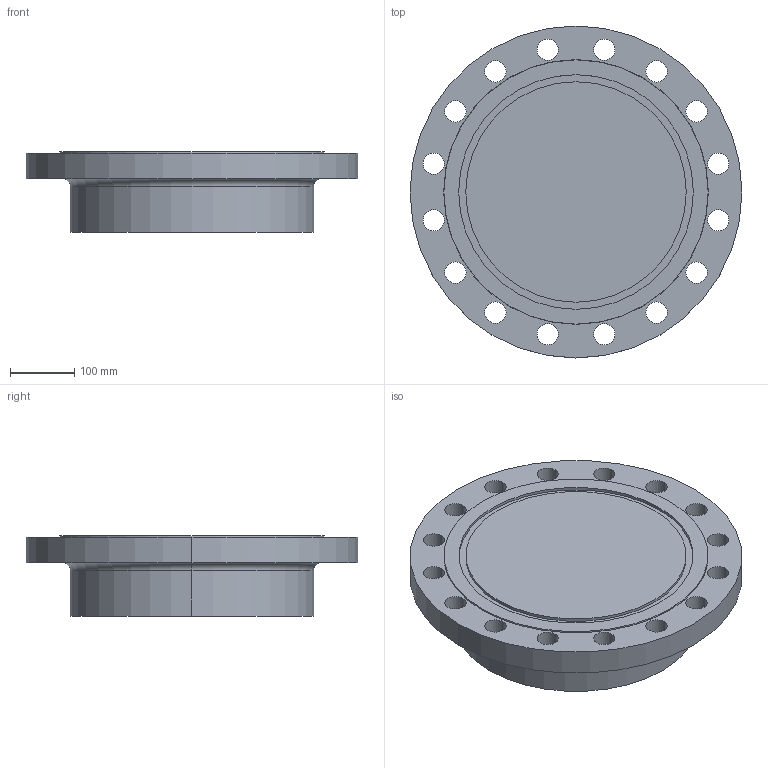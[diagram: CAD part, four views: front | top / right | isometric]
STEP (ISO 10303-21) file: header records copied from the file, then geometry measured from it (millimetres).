
FILE_DESCRIPTION (( 'STEP AP214' ), '1' );
FILE_NAME ('PN40 DN300 Type 21(i) - Type D Face.STEP', '2019-01-05T20:17:13', ( '' ), ( '' ), 'SwSTEP 2.0', 'SolidWorks 2019', '' );
FILE_SCHEMA (( 'AUTOMOTIVE_DESIGN' ));
Length unit declared in the file: millimetre
Products named in the file (1): PN40 DN300 Type 21(i) - Type D Face
Bounding box: 515 x 515 x 125 mm (x, y, z)
Volume: 17346055.8 mm3; surface area: 624968.6 mm2
Topology: 1 solids, 1 shells, 50 faces, 130 edges, 86 vertices
Faces by surface type: cylinder 40, plane 6, torus 2, cone 2
Entity records: 1684 total; most frequent: DIRECTION 320, CARTESIAN_POINT 267, ORIENTED_EDGE 260, AXIS2_PLACEMENT_3D 139, EDGE_CURVE 130, CIRCLE 88, EDGE_LOOP 86, VERTEX_POINT 86
